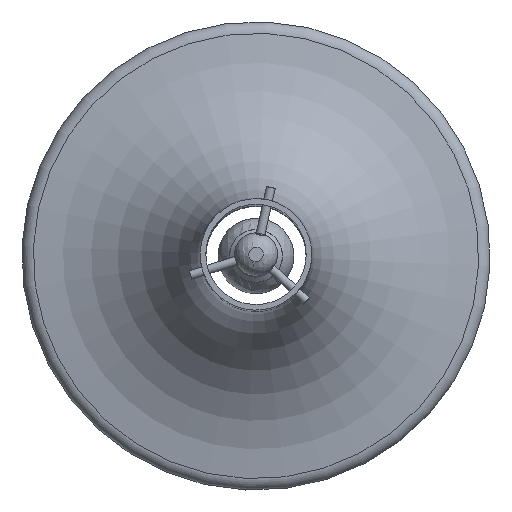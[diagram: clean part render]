
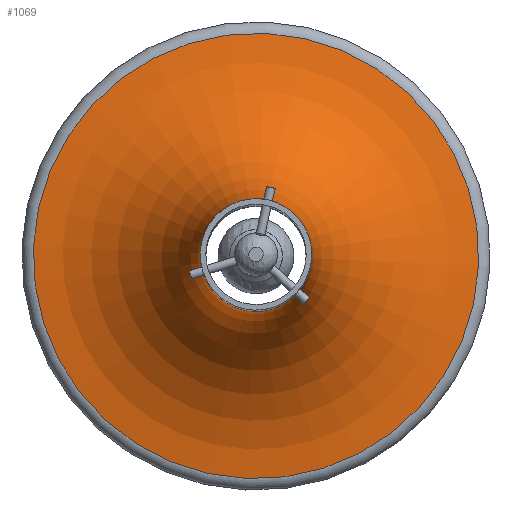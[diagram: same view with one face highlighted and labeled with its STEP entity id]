
A CAD part, top view. The second image highlights one B-rep face of the part: STEP entity #1069.
In plain terms, the highlighted toroidal (fillet/blend) face has major radius 105 mm and minor radius 80 mm.
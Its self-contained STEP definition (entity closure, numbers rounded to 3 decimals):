
#100=TOROIDAL_SURFACE('',#1354,105.,80.);
#196=FACE_OUTER_BOUND('',#265,.T.);
#265=EDGE_LOOP('',(#960,#961,#962,#963,#964,#965,#966));
#417=CIRCLE('',#1350,99.854);
#419=CIRCLE('',#1352,99.854);
#420=CIRCLE('',#1353,99.854);
#421=CIRCLE('',#1355,80.);
#422=CIRCLE('',#1356,25.);
#423=CIRCLE('',#1357,25.);
#531=VERTEX_POINT('',#2382);
#532=VERTEX_POINT('',#2383);
#533=VERTEX_POINT('',#2386);
#534=VERTEX_POINT('',#2390);
#535=VERTEX_POINT('',#2392);
#677=EDGE_CURVE('',#531,#532,#417,.T.);
#679=EDGE_CURVE('',#532,#533,#419,.T.);
#680=EDGE_CURVE('',#533,#531,#420,.T.);
#681=EDGE_CURVE('',#533,#534,#421,.T.);
#682=EDGE_CURVE('',#534,#535,#422,.T.);
#683=EDGE_CURVE('',#535,#534,#423,.T.);
#960=ORIENTED_EDGE('',*,*,#677,.F.);
#961=ORIENTED_EDGE('',*,*,#680,.F.);
#962=ORIENTED_EDGE('',*,*,#681,.T.);
#963=ORIENTED_EDGE('',*,*,#682,.T.);
#964=ORIENTED_EDGE('',*,*,#683,.T.);
#965=ORIENTED_EDGE('',*,*,#681,.F.);
#966=ORIENTED_EDGE('',*,*,#679,.F.);
#1069=ADVANCED_FACE('',(#196),#100,.F.);
#1350=AXIS2_PLACEMENT_3D('',#2384,#1705,#1706);
#1352=AXIS2_PLACEMENT_3D('',#2387,#1709,#1710);
#1353=AXIS2_PLACEMENT_3D('',#2388,#1711,#1712);
#1354=AXIS2_PLACEMENT_3D('',#2389,#1713,#1714);
#1355=AXIS2_PLACEMENT_3D('',#2391,#1715,#1716);
#1356=AXIS2_PLACEMENT_3D('',#2393,#1717,#1718);
#1357=AXIS2_PLACEMENT_3D('',#2394,#1719,#1720);
#1705=DIRECTION('center_axis',(0.,-1.,0.));
#1706=DIRECTION('ref_axis',(1.,0.,0.));
#1709=DIRECTION('center_axis',(0.,-1.,0.));
#1710=DIRECTION('ref_axis',(1.,0.,0.));
#1711=DIRECTION('center_axis',(0.,-1.,0.));
#1712=DIRECTION('ref_axis',(1.,0.,0.));
#1713=DIRECTION('center_axis',(0.,-1.,0.));
#1714=DIRECTION('ref_axis',(0.,0.,-1.));
#1715=DIRECTION('center_axis',(1.,0.,0.));
#1716=DIRECTION('ref_axis',(0.,0.,1.));
#1717=DIRECTION('center_axis',(0.,-1.,0.));
#1718=DIRECTION('ref_axis',(1.,0.,0.));
#1719=DIRECTION('center_axis',(0.,-1.,0.));
#1720=DIRECTION('ref_axis',(1.,0.,0.));
#2382=CARTESIAN_POINT('',(-99.854,5.666,0.));
#2383=CARTESIAN_POINT('',(0.,5.666,-99.854));
#2384=CARTESIAN_POINT('Origin',(0.,5.666,0.));
#2386=CARTESIAN_POINT('',(0.,5.666,99.854));
#2387=CARTESIAN_POINT('Origin',(0.,5.666,0.));
#2388=CARTESIAN_POINT('Origin',(0.,5.666,0.));
#2389=CARTESIAN_POINT('Origin',(0.,85.5,0.));
#2390=CARTESIAN_POINT('',(0.,85.5,25.));
#2391=CARTESIAN_POINT('Origin',(0.,85.5,105.));
#2392=CARTESIAN_POINT('',(-25.,85.5,0.));
#2393=CARTESIAN_POINT('Origin',(0.,85.5,0.));
#2394=CARTESIAN_POINT('Origin',(0.,85.5,0.));
